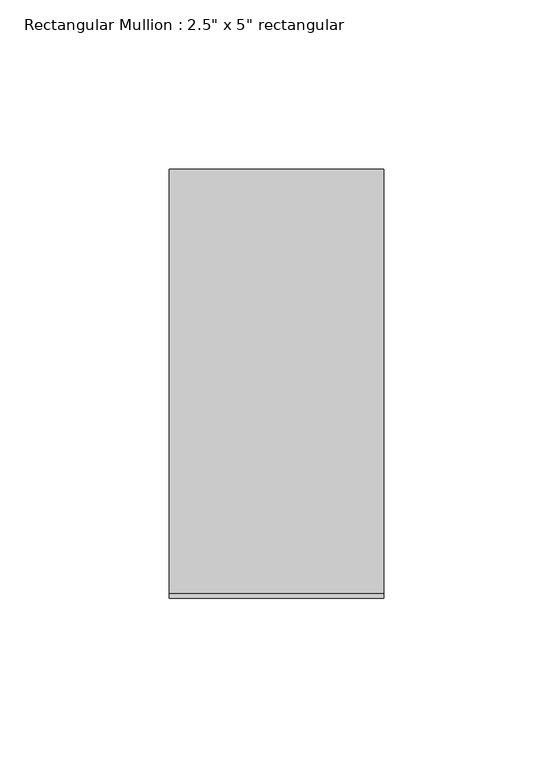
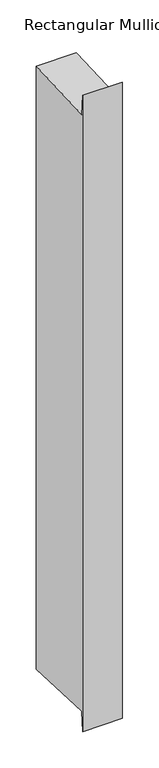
"""IFC4 building model written with IfcOpenShell, lengths in millimetres: member geometry."""

from ifc_helpers import new_model, si_unit, frame, origin, place, context, project, spatial, polyline, outline, extrude, source, transform, mapped, element, save


def member_69c438ee(model_context):
    return source(origin(), model_context, "Body", "SweptSolid", [
        extrude(outline(polyline([(-63.5, 30.3543811), (-62.043738, -2.7592318), (63.5, 2.7618987), (63.5, -1010.5797492), (-62.043738, -1005.0586187), (-63.5, -1038.1722316), (-63.5, 30.3543811)])), frame((-63.5, 0.0, 0.0), z_axis=(1.0, 0.0, 0.0), x_axis=(0.0, 1.0, 0.0)), (0.0, 0.0, 1.0), 63.5),
    ])


if __name__ == "__main__":
    model = new_model("IFC4")
    model_context = context("Model", 3, world=origin())
    ifc_project = project(units=[si_unit("LENGTHUNIT", "METRE", prefix="MILLI")], contexts=[model_context])
    site = spatial("IfcSite", under=ifc_project)
    building = spatial("IfcBuilding", under=site)
    placement = place(None, origin())
    member_shape = member_69c438ee(model_context)
    element("IfcMember", 1, ObjectType="Rectangular Mullion : 2.5\" x 5\" rectangular", at=placement, inside=building, context=model_context, shape_type="MappedRepresentation", body=[
        mapped(member_shape, transform((0.0, 0.0, 0.0), x_axis=(1.0, 0.0, 0.0), y_axis=(0.0, 1.0, 0.0), z_axis=(0.0, 0.0, 1.0))),
    ])
    save(model, "model.ifc")
